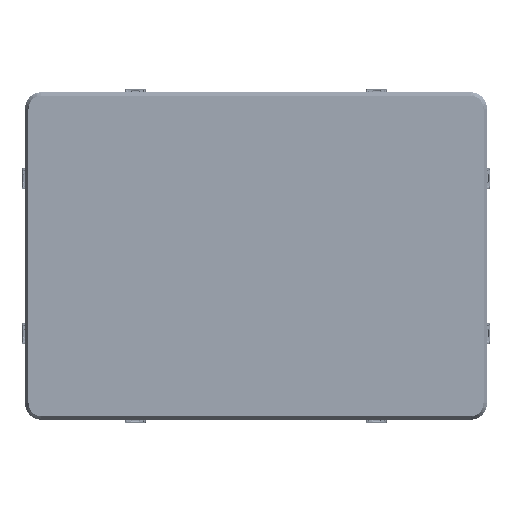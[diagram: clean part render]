
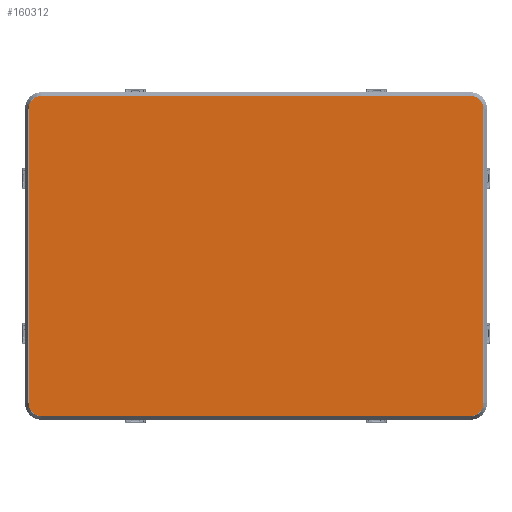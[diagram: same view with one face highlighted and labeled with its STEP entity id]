
A CAD part, front view. The second image highlights one B-rep face of the part: STEP entity #160312.
In plain terms, the highlighted planar face has unit normal (0, -1, 0) as drawn and (0, 1, 0) by its records, which use the part's own axes.
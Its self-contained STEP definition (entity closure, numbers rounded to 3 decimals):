
#10486=CIRCLE('',#173039,7.4);
#10491=CIRCLE('',#173048,7.4);
#10492=CIRCLE('',#173050,7.4);
#10493=CIRCLE('',#173051,7.4);
#18485=FACE_OUTER_BOUND('',#28010,.T.);
#28010=EDGE_LOOP('',(#109431,#109432,#109433,#109434,#109435,#109436,#109437,
#109438));
#38449=LINE('',#244244,#54367);
#38452=LINE('',#244249,#54370);
#38454=LINE('',#244256,#54372);
#38455=LINE('',#244260,#54373);
#54367=VECTOR('',#189594,239.);
#54370=VECTOR('',#189599,162.);
#54372=VECTOR('',#189607,239.);
#54373=VECTOR('',#189610,162.);
#70429=VERTEX_POINT('',#244212);
#70430=VERTEX_POINT('',#244213);
#70443=VERTEX_POINT('',#244243);
#70444=VERTEX_POINT('',#244247);
#70445=VERTEX_POINT('',#244251);
#70446=VERTEX_POINT('',#244255);
#70447=VERTEX_POINT('',#244257);
#70448=VERTEX_POINT('',#244259);
#85789=EDGE_CURVE('',#70429,#70430,#10486,.T.);
#85804=EDGE_CURVE('',#70443,#70430,#38449,.T.);
#85807=EDGE_CURVE('',#70429,#70444,#38452,.T.);
#85809=EDGE_CURVE('',#70445,#70444,#10491,.T.);
#85810=EDGE_CURVE('',#70445,#70446,#38454,.T.);
#85811=EDGE_CURVE('',#70447,#70446,#10492,.T.);
#85812=EDGE_CURVE('',#70447,#70448,#38455,.T.);
#85813=EDGE_CURVE('',#70443,#70448,#10493,.T.);
#109431=ORIENTED_EDGE('',*,*,#85789,.F.);
#109432=ORIENTED_EDGE('',*,*,#85807,.T.);
#109433=ORIENTED_EDGE('',*,*,#85809,.F.);
#109434=ORIENTED_EDGE('',*,*,#85810,.T.);
#109435=ORIENTED_EDGE('',*,*,#85811,.F.);
#109436=ORIENTED_EDGE('',*,*,#85812,.T.);
#109437=ORIENTED_EDGE('',*,*,#85813,.F.);
#109438=ORIENTED_EDGE('',*,*,#85804,.T.);
#154103=PLANE('',#173049);
#160312=ADVANCED_FACE('',(#18485),#154103,.T.);
#173039=AXIS2_PLACEMENT_3D('',#244214,#189570,#189571);
#173048=AXIS2_PLACEMENT_3D('',#244253,#189603,#189604);
#173049=AXIS2_PLACEMENT_3D('',#244254,#189605,#189606);
#173050=AXIS2_PLACEMENT_3D('',#244258,#189608,#189609);
#173051=AXIS2_PLACEMENT_3D('',#244261,#189611,#189612);
#189570=DIRECTION('center_axis',(0.,-1.,0.));
#189571=DIRECTION('ref_axis',(-0.707,0.,-0.707));
#189594=DIRECTION('',(-1.,0.,0.));
#189599=DIRECTION('',(0.,0.,1.));
#189603=DIRECTION('center_axis',(0.,-1.,0.));
#189604=DIRECTION('ref_axis',(-0.707,0.,0.707));
#189605=DIRECTION('center_axis',(0.,1.,0.));
#189606=DIRECTION('ref_axis',(1.,0.,0.));
#189607=DIRECTION('',(1.,0.,0.));
#189608=DIRECTION('center_axis',(0.,-1.,0.));
#189609=DIRECTION('ref_axis',(0.707,0.,0.707));
#189610=DIRECTION('',(0.,0.,-1.));
#189611=DIRECTION('center_axis',(0.,-1.,0.));
#189612=DIRECTION('ref_axis',(0.707,0.,-0.707));
#244212=CARTESIAN_POINT('',(-131.9,3.,-85.5));
#244213=CARTESIAN_POINT('',(-124.5,3.,-92.9));
#244214=CARTESIAN_POINT('Origin',(-124.5,3.,-85.5));
#244243=CARTESIAN_POINT('',(124.5,3.,-92.9));
#244244=CARTESIAN_POINT('',(119.5,3.,-92.9));
#244247=CARTESIAN_POINT('',(-131.9,3.,85.5));
#244249=CARTESIAN_POINT('',(-131.9,3.,-81.));
#244251=CARTESIAN_POINT('',(-124.5,3.,92.9));
#244253=CARTESIAN_POINT('Origin',(-124.5,3.,85.5));
#244254=CARTESIAN_POINT('Origin',(0.,3.,0.));
#244255=CARTESIAN_POINT('',(124.5,3.,92.9));
#244256=CARTESIAN_POINT('',(-119.5,3.,92.9));
#244257=CARTESIAN_POINT('',(131.9,3.,85.5));
#244258=CARTESIAN_POINT('Origin',(124.5,3.,85.5));
#244259=CARTESIAN_POINT('',(131.9,3.,-85.5));
#244260=CARTESIAN_POINT('',(131.9,3.,81.));
#244261=CARTESIAN_POINT('Origin',(124.5,3.,-85.5));
